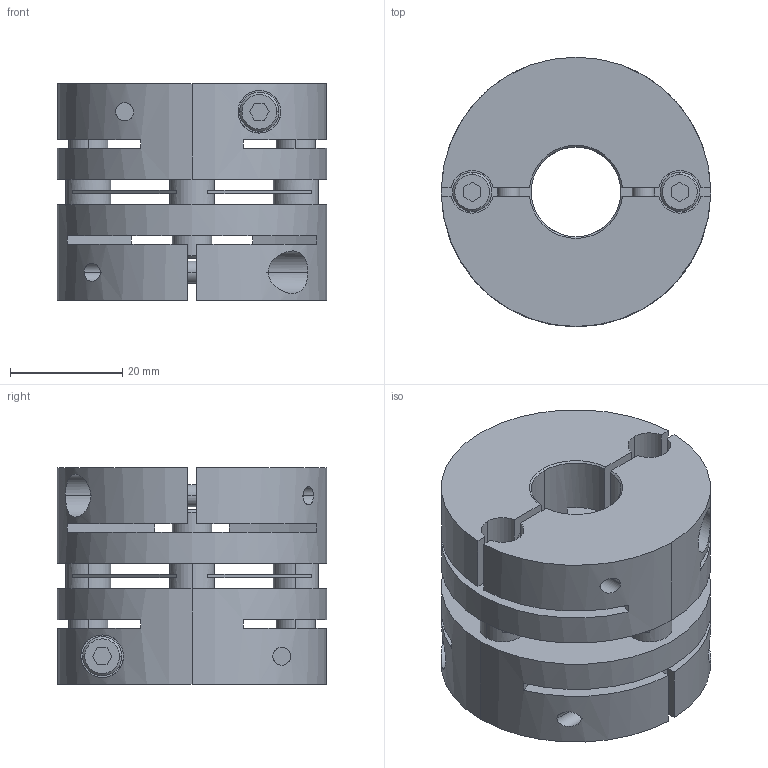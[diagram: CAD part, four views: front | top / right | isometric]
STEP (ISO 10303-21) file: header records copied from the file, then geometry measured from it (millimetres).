
FILE_DESCRIPTION((''),'2;1');
FILE_NAME('LAS-48C-16×24.stp','2011-08-09T17:01:31',(''),(''),'AutoCAD STEP 2000i','AutoCAD 2000i',', , ');
FILE_SCHEMA(('CONFIG_CONTROL_DESIGN'));
Length unit declared in the file: millimetre
Products named in the file (6): LAS-48C-12×19; 忣兜1; LA-4802-D19; LA-4802-D12-1; LA-4802-D12; LAS48-ITA
Assembly tree (5 placements, depth 2):
  LAS-48C-12×19
    忣兜1
    LA-4802-D19
    LA-4802-D12-1
    LA-4802-D12
    LAS48-ITA
Bounding box: 48 x 48 x 38.6 mm (x, y, z)
Volume: 45383.3 mm3; surface area: 21668.5 mm2
Topology: 1 solids, 1 shells, 224 faces, 600 edges, 392 vertices
Faces by surface type: plane 112, cylinder 84, cone 28
Entity records: 7841 total; most frequent: CARTESIAN_POINT 1878, DIRECTION 1256, ORIENTED_EDGE 1200, EDGE_CURVE 600, AXIS2_PLACEMENT_3D 458, VERTEX_POINT 392, VECTOR 340, LINE 340
